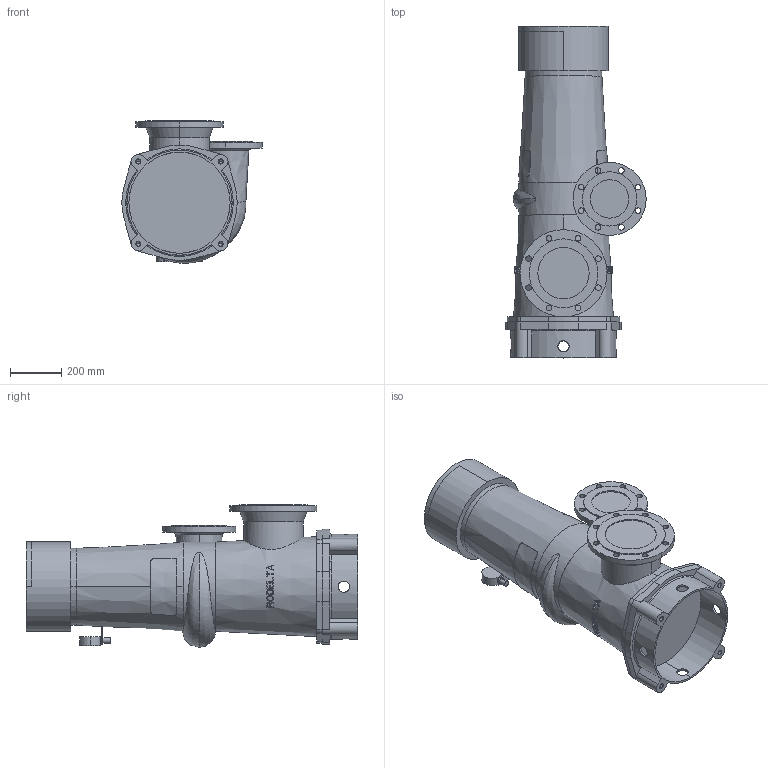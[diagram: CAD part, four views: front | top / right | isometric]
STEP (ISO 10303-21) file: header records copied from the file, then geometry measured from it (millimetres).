
FILE_DESCRIPTION((''),'2;1');
FILE_NAME('7310_ASM','2024-07-23T',('Lyritlocal'),(''),'PRO/ENGINEER BY PARAMETRIC TECHNOLOGY CORPORATION, 2016360','PRO/ENGINEER BY PARAMETRIC TECHNOLOGY CORPORATION, 2016360','');
FILE_SCHEMA(('CONFIG_CONTROL_DESIGN'));
Length unit declared in the file: millimetre
Products named in the file (3): 7310_VOET; 7310; 7310_ASM
Assembly tree (2 placements, depth 2):
  7310_ASM
    7310_VOET
    7310
Bounding box: 547.5 x 1295 x 556.63 mm (x, y, z)
Volume: 130921154 mm3; surface area: 2758235.8 mm2
Topology: 2 solids, 6 shells, 520 faces, 1400 edges, 927 vertices
Faces by surface type: plane 343, cylinder 129, cone 38, bspline 6, torus 4
Entity records: 18158 total; most frequent: CARTESIAN_POINT 5526, ORIENTED_EDGE 2768, DIRECTION 2357, EDGE_CURVE 1392, VERTEX_POINT 927, AXIS2_PLACEMENT_3D 912, EDGE_LOOP 611, VECTOR 533
